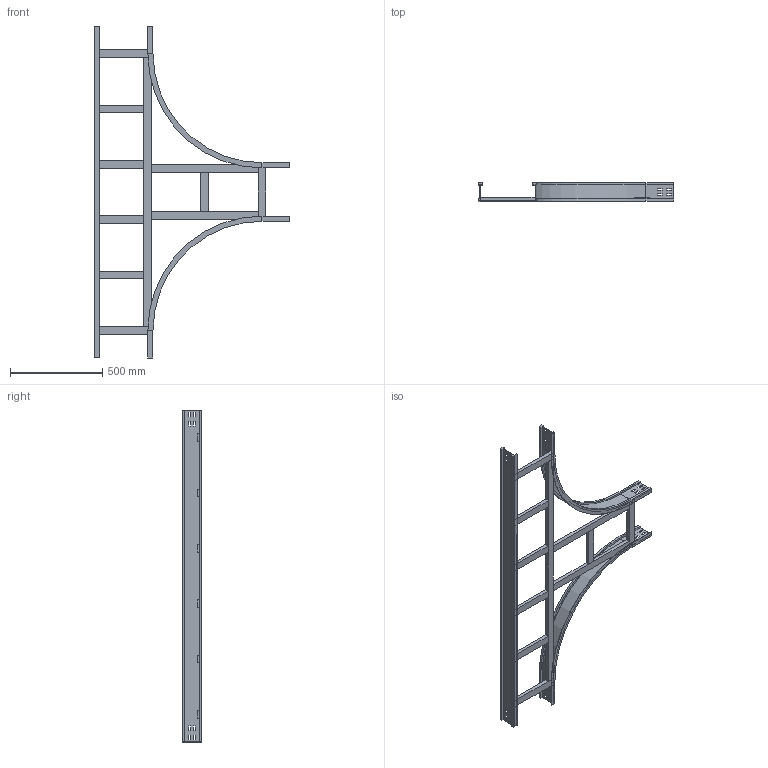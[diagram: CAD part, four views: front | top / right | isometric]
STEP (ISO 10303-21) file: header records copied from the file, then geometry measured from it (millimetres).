
FILE_DESCRIPTION (( 'STEP AP214' ), '1' );
FILE_NAME ('15S6D300.step', '2025-02-21T16:12:57', ( '' ), ( '' ), 'SwSTEP 2.0', 'SolidWorks 2023', '' );
FILE_SCHEMA (( 'AUTOMOTIVE_DESIGN' ));
Length unit declared in the file: millimetre
Products named in the file (8): TRAVERSINO_INTERMEDIO_R600+300; TRAVERSINO_300; LONGH.RETT_H100_R600+300; 15S6D300; TRAVERSINO_COPPIA_300; TRAVERSINO_LONG._R600+300; TRAVERSINO_VERT_R600; LONGH.INTERNO 90°_H100_R600
Assembly tree (14 placements, depth 2):
  15S6D300
    LONGH.INTERNO 90°_H100_R600  x2
    LONGH.RETT_H100_R600+300
    TRAVERSINO_300  x3
    TRAVERSINO_LONG._R600+300
    TRAVERSINO_INTERMEDIO_R600+300  x4
    TRAVERSINO_VERT_R600  x2
    TRAVERSINO_COPPIA_300
Bounding box: 1059 x 100 x 1800 mm (x, y, z)
Volume: 6116836 mm3; surface area: 1862094 mm2
Topology: 14 solids, 14 shells, 252 faces, 624 edges, 400 vertices
Faces by surface type: plane 240, cylinder 12
Entity records: 4669 total; most frequent: CARTESIAN_POINT 775, ORIENTED_EDGE 744, DIRECTION 710, EDGE_CURVE 372, VECTOR 360, LINE 360, VERTEX_POINT 240, EDGE_LOOP 178
